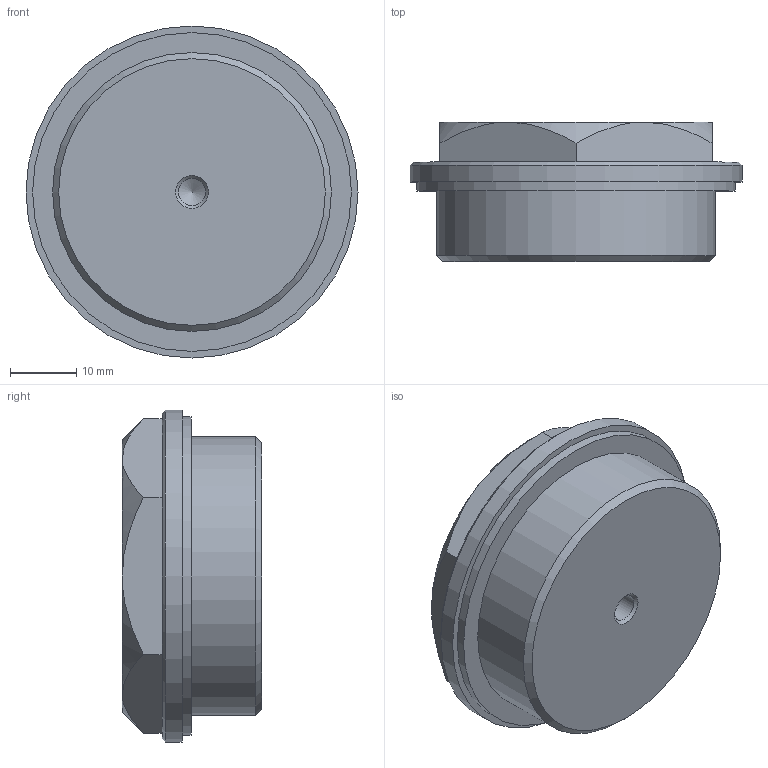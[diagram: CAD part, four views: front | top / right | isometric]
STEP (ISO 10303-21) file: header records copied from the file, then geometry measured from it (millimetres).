
FILE_DESCRIPTION( ( 'STEP AP203' ), '1' );
FILE_NAME( 'C:/Temp/Ganter_Step_05_03_2020/data/3_5/gn742/gn742_1/Threaded plug GN 742-50-M42x1,5-OSS-1.stp', '2020-03-12T13:39:19', ( 'License CC BY-ND 4.0' ), ( 'CADENAS' ), ' ', 'PARTsolutions', ' ' );
FILE_SCHEMA( ( 'CONFIG_CONTROL_DESIGN' ) );
Length unit declared in the file: millimetre
Products named in the file (1): _Threaded plug GN 742-50-M42x1,5-OSS-1
Bounding box: 50 x 21 x 50 mm (x, y, z)
Volume: 31397.6 mm3; surface area: 6849.1 mm2
Topology: 1 solids, 1 shells, 25 faces, 50 edges, 30 vertices
Faces by surface type: plane 11, cone 10, cylinder 4
Full cylindrical faces by diameter (mm): 4.134 x1, 42 x1, 48 x1, 50 x1
Entity records: 708 total; most frequent: CARTESIAN_POINT 189, DIRECTION 98, ORIENTED_EDGE 82, AXIS2_PLACEMENT_3D 43, EDGE_CURVE 41, EDGE_LOOP 36, VERTEX_POINT 30, FACE_OUTER_BOUND 29
